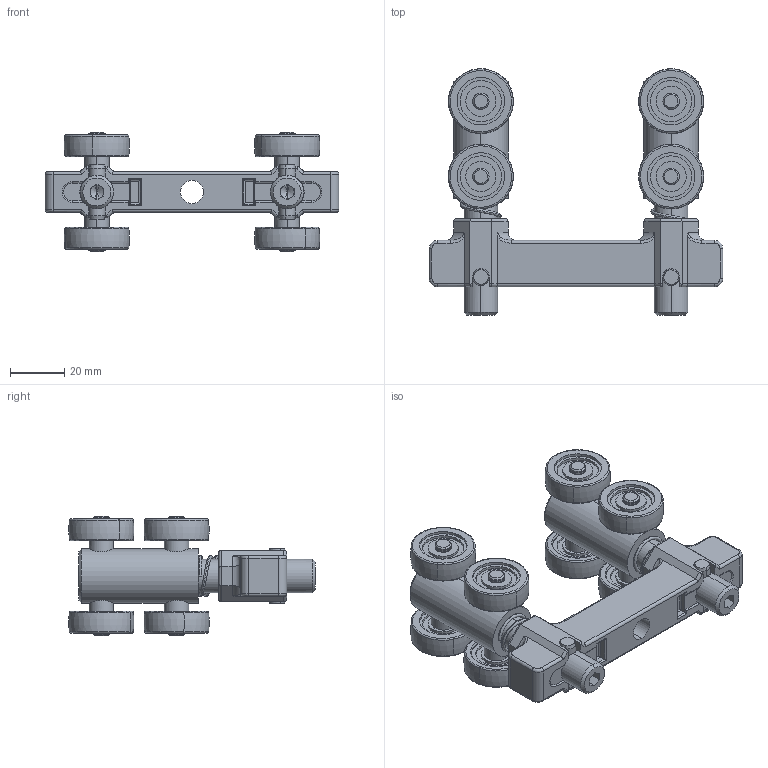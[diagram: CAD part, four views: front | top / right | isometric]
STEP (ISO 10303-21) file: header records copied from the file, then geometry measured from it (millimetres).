
FILE_DESCRIPTION (( 'STEP AP203' ), '1' );
FILE_NAME ('800.019.109.STEP', '2015-05-25T09:30:16', ( '' ), ( '' ), 'SwSTEP 2.0', 'SolidWorks 2012', '' );
FILE_SCHEMA (( 'CONFIG_CONTROL_DESIGN' ));
Length unit declared in the file: millimetre
Products named in the file (9): 800.019.109; 800.019.117; 800.019.116_Default<A macchina>; Parallel Pin Hardened_BSI_Parallel Pin ISO 8734 - 6 x 20 - A - St; 800.019.120; 800.019.119; 800.019.121; 800.019.124; 800.019.111
Assembly tree (35 placements, depth 2):
  800.019.109
    800.019.111
    800.019.124  x2
    800.019.121  x4
    800.019.119  x2
    800.019.120  x8
    Parallel Pin Hardened_BSI_Parallel Pin ISO 8734 - 6 x 20 - A - St  x2
    800.019.116_Default<A macchina>  x8
    800.019.117  x8
Bounding box: 108 x 90.67 x 43.8 mm (x, y, z)
Volume: 88188.5 mm3; surface area: 50607.5 mm2
Topology: 35 solids, 35 shells, 722 faces, 1580 edges, 978 vertices
Faces by surface type: cylinder 356, plane 216, torus 70, cone 60, bspline 20
Entity records: 12805 total; most frequent: CARTESIAN_POINT 4046, DIRECTION 1498, ORIENTED_EDGE 1480, EDGE_CURVE 740, AXIS2_PLACEMENT_3D 559, VERTEX_POINT 447, LINE 380, VECTOR 380
